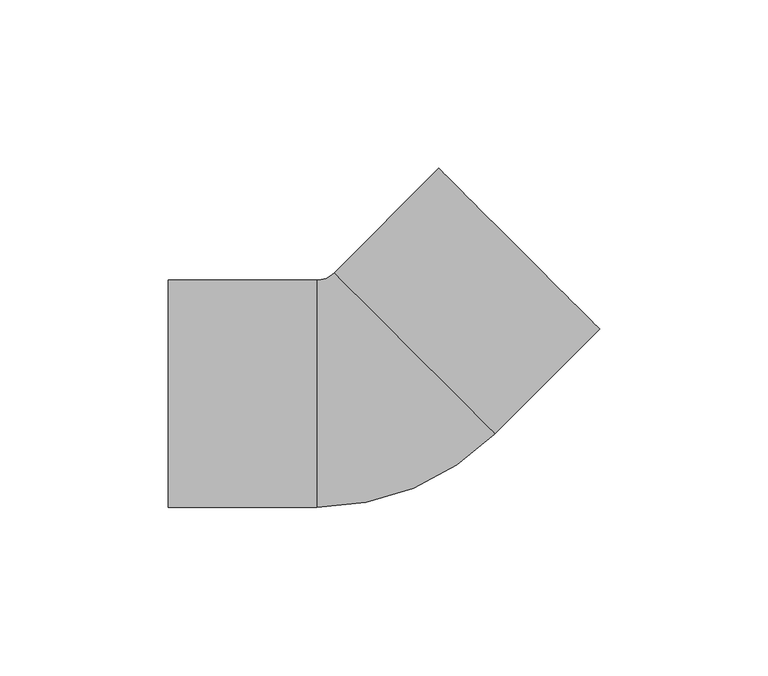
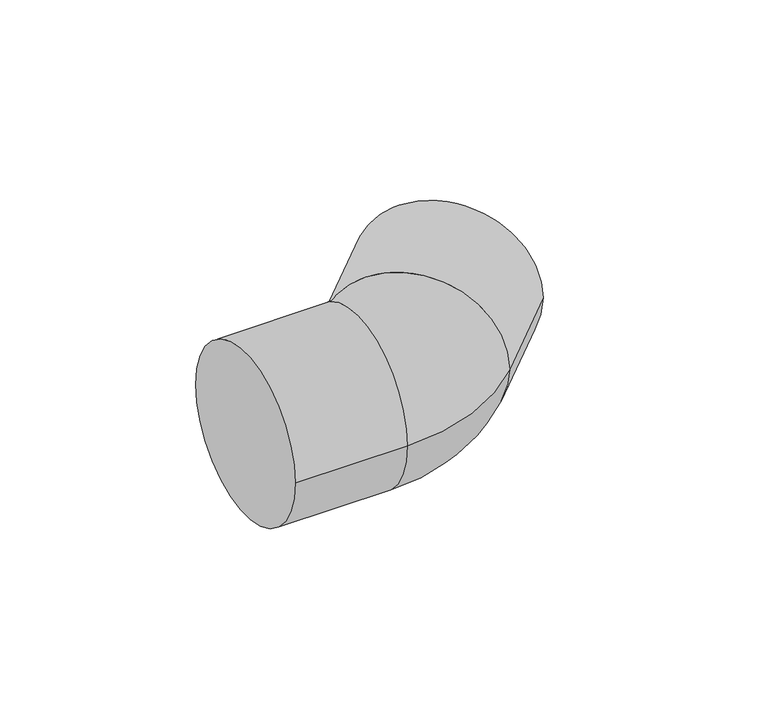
"""IFC4 building model written with IfcOpenShell, lengths in millimetres: pipe fitting geometry, 01051067 : Codos 45º."""

from ifc_helpers import new_model, si_unit, point, frame, origin, place, context, project, spatial, circle_curve, ellipse_curve, trimmed, source, transform, mapped, element, save
from ifc_brep_helpers import plane_surface, cylinder_surface, revolved_surface, advanced_brep


def pipe_fitting_dfeef87c(model_context):
    return source(origin(), model_context, "Body", "AdvancedBrep", [
        advanced_brep(
        [(-61.0, -33.75, 0.0), (-61.0, 33.75, 0.0), (-17.0, -33.75, 0.0), (-17.0, 33.75, 0.0), (-11.8440386, 35.8856691, 0.0), (35.8856691, -11.8440386, 0.0), (66.9983675, 19.2686598, 0.0), (19.2686598, 66.9983675, 0.0)],
        [
            (0, 1, circle_curve(frame((-61.0, 0.0, 0.0), z_axis=(-1.0, 0.0, 0.0), x_axis=(0.0, 1.0, 0.0)), 33.75)),
            (1, 0, circle_curve(frame((-61.0, 0.0, 0.0), z_axis=(-1.0, 0.0, 0.0), x_axis=(0.0, 1.0, 0.0)), 33.75)),
            (0, 2),
            (2, 3, circle_curve(frame((-17.0, 0.0, 0.0), z_axis=(-1.0, 0.0, 0.0), x_axis=(0.0, 1.0, 0.0)), 33.75)),
            (3, 1),
            (3, 2, circle_curve(frame((-17.0, 0.0, 0.0), z_axis=(-1.0, 0.0, 0.0), x_axis=(0.0, 1.0, 0.0)), 33.75)),
            (4, 3, circle_curve(frame((-17.0, 41.0416306, 0.0), z_axis=(0.0, 0.0, -1.0), x_axis=(0.0, -1.0, 0.0)), 7.2916306)),
            (2, 5, circle_curve(frame((-17.0, 41.0416306, 0.0), z_axis=(0.0, 0.0, 1.0), x_axis=(0.0, -1.0, 0.0)), 74.7916306)),
            (5, 4, circle_curve(frame((12.0208153, 12.0208153, 0.0), z_axis=(-0.7071067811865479, -0.7071067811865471, 0.0), x_axis=(-0.7071067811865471, 0.7071067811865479, 0.0)), 33.75)),
            (4, 5, circle_curve(frame((12.0208153, 12.0208153, 0.0), z_axis=(-0.7071067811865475, -0.7071067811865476, 0.0), x_axis=(-0.7071067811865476, 0.7071067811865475, 0.0)), 33.75)),
            (6, 7, circle_curve(frame((43.1335137, 43.1335137, 0.0), z_axis=(0.7071067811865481, 0.707106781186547, 0.0), x_axis=(-0.707106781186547, 0.7071067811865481, 0.0)), 33.75)),
            (7, 6, circle_curve(frame((43.1335137, 43.1335137, 0.0), z_axis=(0.7071067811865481, 0.707106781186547, 0.0), x_axis=(-0.707106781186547, 0.7071067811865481, 0.0)), 33.75)),
            (5, 6),
            (7, 4),
        ],
        [
            plane_surface(frame((-61.0, 0.0, 0.0), z_axis=(-1.0, 0.0, 0.0), x_axis=(0.0, 0.0, 1.0))),
            cylinder_surface(frame((-61.0, 0.0, 0.0), z_axis=(-1.0, 0.0, 0.0), x_axis=(0.0, 1.0, 0.0)), 33.75),
            revolved_surface(trimmed(ellipse_curve(frame((-17.0, 0.0, 0.0), z_axis=(-1.0, 0.0, 0.0), x_axis=(0.0, 1.0, 0.0)), 33.75, 33.75), [point((-17.0, -33.75, 0.0))], [point((-17.0, 33.75, 0.0))], True, "CARTESIAN"), (-17.0, 41.0416306, 0.0), (0.0, 0.0, 1.0)),
            revolved_surface(trimmed(ellipse_curve(frame((-17.0, 0.0, 0.0), z_axis=(-1.0, 0.0, 0.0), x_axis=(0.0, 1.0, 0.0)), 33.75, 33.75), [point((-17.0, 33.75, 0.0))], [point((-17.0, -33.75, 0.0))], True, "CARTESIAN"), (-17.0, 41.0416306, 0.0), (0.0, 0.0, 1.0)),
            plane_surface(frame((43.1335137, 43.1335137, 0.0), z_axis=(0.707106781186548, 0.707106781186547, 0.0), x_axis=(0.0, 0.0, 1.0))),
            cylinder_surface(frame((12.0208153, 12.0208153, 0.0), z_axis=(-0.7071067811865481, -0.707106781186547, 0.0), x_axis=(-0.707106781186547, 0.7071067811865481, 0.0)), 33.75),
        ],
        [
            (0, [[1, 2]]),
            (1, [[-1, 3, 4, 5]]),
            (1, [[-2, -5, 6, -3]]),
            (2, [[7, -4, 8, 9]]),
            (3, [[-8, -6, -7, 10]]),
            (4, [[11, 12]]),
            (5, [[-9, 13, -12, 14]]),
            (5, [[-10, -14, -11, -13]]),
        ],
    ),
    ])


if __name__ == "__main__":
    model = new_model("IFC4")
    model_context = context("Model", 3, world=origin())
    ifc_project = project(units=[si_unit("LENGTHUNIT", "METRE", prefix="MILLI")], contexts=[model_context])
    site = spatial("IfcSite", under=ifc_project)
    building = spatial("IfcBuilding", under=site)
    placement = place(None, origin())
    pipe_fitting_shape = pipe_fitting_dfeef87c(model_context)
    element("IfcPipeFitting", 1, ObjectType="01051067 : Codos 45º", at=placement, inside=building, context=model_context, shape_type="MappedRepresentation", body=[
        mapped(pipe_fitting_shape, transform((0.0, 0.0, 0.0), x_axis=(1.0, 0.0, 0.0), y_axis=(0.0, 1.0, 0.0), z_axis=(0.0, 0.0, 1.0))),
    ])
    save(model, "model.ifc")
